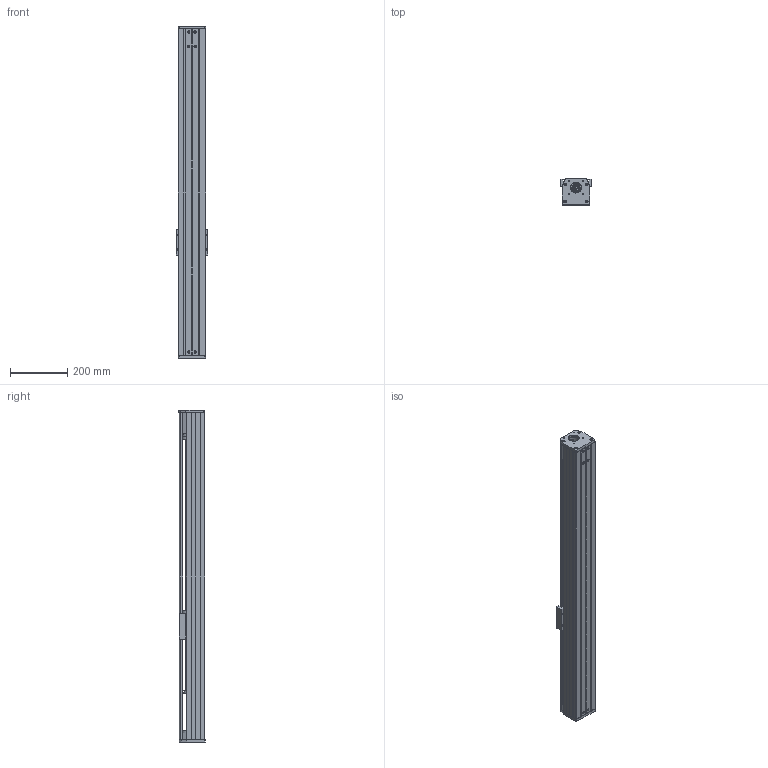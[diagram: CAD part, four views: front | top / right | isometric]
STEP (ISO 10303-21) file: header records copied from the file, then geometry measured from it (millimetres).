
FILE_DESCRIPTION (( 'STEP AP203' ), '1' );
FILE_NAME ('CF95-1-P900.STEP', '2016-02-23T02:58:47', ( 'Sky123.Org' ), ( 'Sky123.Org' ), 'SwSTEP 2.0', 'SolidWorks 2015', '' );
FILE_SCHEMA (( 'CONFIG_CONTROL_DESIGN' ));
Length unit declared in the file: millimetre
Products named in the file (18): 95滅袉蝶菜; 95盓厥傷; 95粣創裔啣; 95裔啣-1-750; SFU1605-3; 95臏倰第-1-750; 95賑輸; CF-HGR20絳寢-750; deep groove ball bearings gb_Rolling bearings 6001 GB 276-94; SFS1605-750; angular contact ball bearings gb_Rolling bearings S7001 GB 292-94; CF95-57步进电机座（配30-42联轴器）; 坶踡蹟譫M12-1; CF95固定座（配30-42联轴器）; 95耜啣; CF-HGW20CA; CF95-1-P900; circlips for shaft--type a large gb_GB_CONNECTING_PIECE_RING_RRA 12
Assembly tree (19 placements, depth 2):
  CF95-1-P900
    CF-HGW20CA
    95滅袉蝶菜  x2
    95粣創裔啣
    SFU1605-3
    95賑輸
    deep groove ball bearings gb_Rolling bearings 6001 GB 276-94
    angular contact ball bearings gb_Rolling bearings S7001 GB 292-94  x2
    坶踡蹟譫M12-1
    95耜啣
    circlips for shaft--type a large gb_GB_CONNECTING_PIECE_RING_RRA 12
    95盓厥傷
    95裔啣-1-750
    95臏倰第-1-750
    CF-HGR20絳寢-750
    SFS1605-750
    CF95-57步进电机座（配30-42联轴器）
    CF95固定座（配30-42联轴器）
Bounding box: 110 x 92.9 x 1161 mm (x, y, z)
Volume: 3721250.6 mm3; surface area: 1183749.4 mm2
Topology: 19 solids, 19 shells, 1090 faces, 3618 edges, 2417 vertices
Faces by surface type: cylinder 456, plane 386, torus 159, sphere 84, cone 4, bspline 1
Entity records: 40651 total; most frequent: CARTESIAN_POINT 12088, ORIENTED_EDGE 5880, DIRECTION 5374, EDGE_CURVE 2940, AXIS2_PLACEMENT_3D 2056, VERTEX_POINT 1960, VECTOR 1262, LINE 1262
